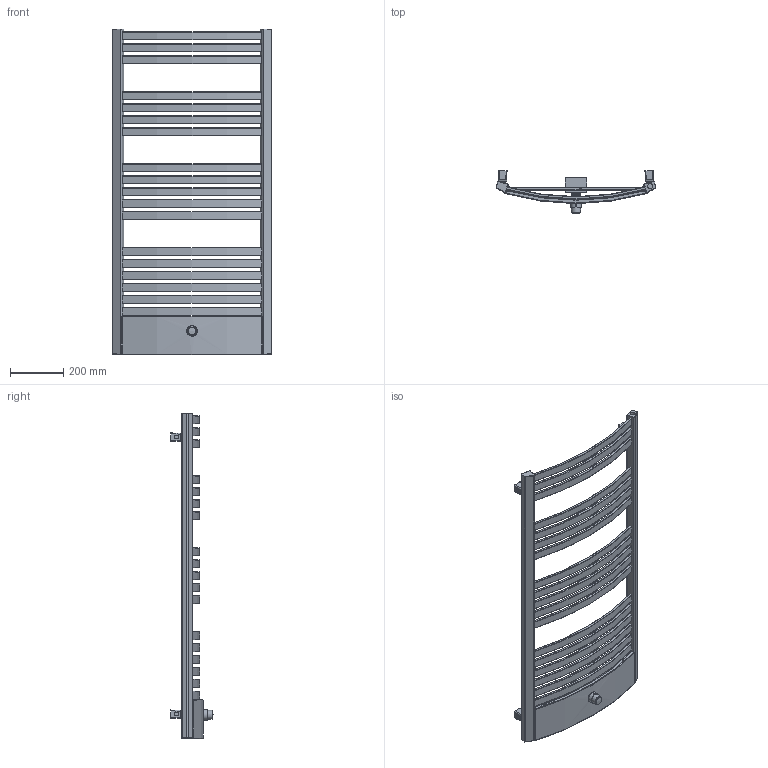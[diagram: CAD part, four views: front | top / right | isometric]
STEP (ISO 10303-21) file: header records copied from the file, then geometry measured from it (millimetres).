
FILE_DESCRIPTION((''),'2;1');
FILE_NAME('Z:\R\G\P\RGPH08 - Grzejnik Dexter pro\Work\Inventor\Dexter Pro v6.1\Marketing\STEP\DP-12-60-ZX.stp','2012-07-24T09:38:48',('PioRo'),(''),'Autodesk Inventor 2012','Autodesk Inventor 2012','');
FILE_SCHEMA(('AUTOMOTIVE_DESIGN { 1 0 10303 214 1 1 1 1 }'));
Length unit declared in the file: millimetre
Products named in the file (1): Część2
Bounding box: 599.89 x 158.22 x 1222 mm (x, y, z)
Volume: 6299077.8 mm3; surface area: 1383722.5 mm2
Topology: 1 solids, 4 shells, 599 faces, 1564 edges, 994 vertices
Faces by surface type: plane 257, cylinder 192, torus 111, bspline 32, cone 5, sphere 2
Full cylindrical faces by diameter (mm): 7 x3, 18.631 x3, 32.4 x1, 33 x1, 34 x2, 35 x2, 36 x1, 36.4 x1, 36.6 x1, 37.2 x1, 40 x2
Entity records: 21208 total; most frequent: CARTESIAN_POINT 6141, ORIENTED_EDGE 3054, DIRECTION 2913, EDGE_CURVE 1527, AXIS2_PLACEMENT_3D 1070, VERTEX_POINT 982, VECTOR 773, LINE 773
